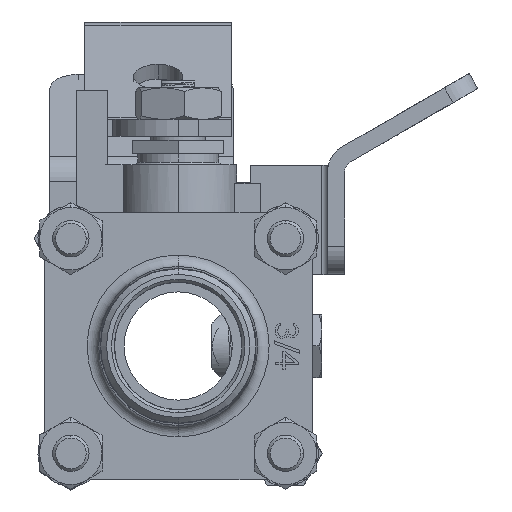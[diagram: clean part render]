
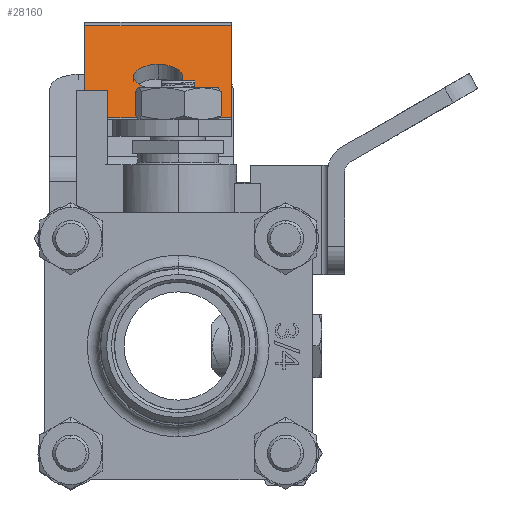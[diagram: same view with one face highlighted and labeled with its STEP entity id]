
A CAD part, left-side view. The second image highlights one B-rep face of the part: STEP entity #28160.
In plain terms, the highlighted planar face has unit normal (-0.5, 0, 0.866).
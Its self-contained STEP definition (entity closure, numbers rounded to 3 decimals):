
#21517 = VERTEX_POINT('',#21518);
#21518 = CARTESIAN_POINT('',(128.749,32.95,
    -13.852));
#21525 = CYLINDRICAL_SURFACE('',#21526,4.3);
#21526 = AXIS2_PLACEMENT_3D('',#21527,#21528,#21529);
#21527 = CARTESIAN_POINT('',(132.473,32.95,
    -11.702));
#21528 = DIRECTION('',(-0.5,0.,0.866));
#21529 = DIRECTION('',(-0.866,0.,-0.5));
#21536 = CYLINDRICAL_SURFACE('',#21537,4.3);
#21537 = AXIS2_PLACEMENT_3D('',#21538,#21539,#21540);
#21538 = CARTESIAN_POINT('',(132.473,32.95,
    -11.702));
#21539 = DIRECTION('',(-0.5,0.,0.866));
#21540 = DIRECTION('',(-0.866,0.,-0.5));
#21547 = EDGE_CURVE('',#21548,#21517,#21550,.T.);
#21548 = VERTEX_POINT('',#21549);
#21549 = CARTESIAN_POINT('',(136.197,32.95,
    -9.552));
#21550 = SURFACE_CURVE('',#21551,(#21556,#21562),.PCURVE_S1.);
#21551 = CIRCLE('',#21552,4.3);
#21552 = AXIS2_PLACEMENT_3D('',#21553,#21554,#21555);
#21553 = CARTESIAN_POINT('',(132.473,32.95,
    -11.702));
#21554 = DIRECTION('',(-0.5,0.,0.866));
#21555 = DIRECTION('',(-0.866,0.,-0.5));
#21556 = PCURVE('',#21525,#21557);
#21557 = DEFINITIONAL_REPRESENTATION('',(#21558),#21561);
#21558 = B_SPLINE_CURVE_WITH_KNOTS('',1,(#21559,#21560),.UNSPECIFIED.,
  .F.,.F.,(2,2),(3.142,6.283),.PIECEWISE_BEZIER_KNOTS.);
#21559 = CARTESIAN_POINT('',(3.142,0.));
#21560 = CARTESIAN_POINT('',(6.283,0.));
#21561 = ( GEOMETRIC_REPRESENTATION_CONTEXT(2) 
PARAMETRIC_REPRESENTATION_CONTEXT() REPRESENTATION_CONTEXT('2D SPACE',''
  ) );
#21562 = PCURVE('',#21563,#21568);
#21563 = PLANE('',#21564);
#21564 = AXIS2_PLACEMENT_3D('',#21565,#21566,#21567);
#21565 = CARTESIAN_POINT('',(119.569,20.15,
    -19.152));
#21566 = DIRECTION('',(0.5,0.,-0.866));
#21567 = DIRECTION('',(0.866,0.,0.5));
#21568 = DEFINITIONAL_REPRESENTATION('',(#21569),#21577);
#21569 = ( BOUNDED_CURVE() B_SPLINE_CURVE(2,(#21570,#21571,#21572,#21573
    ,#21574,#21575,#21576),.UNSPECIFIED.,.T.,.F.) 
B_SPLINE_CURVE_WITH_KNOTS((1,2,2,2,2,1),(-2.094,0.,
    2.094,4.189,6.283,8.378),
.UNSPECIFIED.) CURVE() GEOMETRIC_REPRESENTATION_ITEM() 
RATIONAL_B_SPLINE_CURVE((1.,0.5,1.,0.5,1.,0.5,1.)) REPRESENTATION_ITEM(
  '') );
#21570 = CARTESIAN_POINT('',(10.6,-12.8));
#21571 = CARTESIAN_POINT('',(10.6,-5.352));
#21572 = CARTESIAN_POINT('',(17.05,-9.076));
#21573 = CARTESIAN_POINT('',(23.5,-12.8));
#21574 = CARTESIAN_POINT('',(17.05,-16.524));
#21575 = CARTESIAN_POINT('',(10.6,-20.248));
#21576 = CARTESIAN_POINT('',(10.6,-12.8));
#21577 = ( GEOMETRIC_REPRESENTATION_CONTEXT(2) 
PARAMETRIC_REPRESENTATION_CONTEXT() REPRESENTATION_CONTEXT('2D SPACE',''
  ) );
#27419 = EDGE_CURVE('',#27420,#27422,#27424,.T.);
#27420 = VERTEX_POINT('',#27421);
#27421 = CARTESIAN_POINT('',(120.033,20.15,
    -18.884));
#27422 = VERTEX_POINT('',#27423);
#27423 = CARTESIAN_POINT('',(120.033,45.75,
    -18.884));
#27424 = SURFACE_CURVE('',#27425,(#27429,#27440),.PCURVE_S1.);
#27425 = LINE('',#27426,#27427);
#27426 = CARTESIAN_POINT('',(120.033,20.15,
    -18.884));
#27427 = VECTOR('',#27428,1.);
#27428 = DIRECTION('',(0.,1.,0.));
#27429 = PCURVE('',#27430,#27435);
#27430 = CYLINDRICAL_SURFACE('',#27431,2.);
#27431 = AXIS2_PLACEMENT_3D('',#27432,#27433,#27434);
#27432 = CARTESIAN_POINT('',(119.033,20.15,
    -17.152));
#27433 = DIRECTION('',(0.,-1.,0.));
#27434 = DIRECTION('',(1.,0.,0.));
#27435 = DEFINITIONAL_REPRESENTATION('',(#27436),#27439);
#27436 = B_SPLINE_CURVE_WITH_KNOTS('',1,(#27437,#27438),.UNSPECIFIED.,
  .F.,.F.,(2,2),(0.,25.6),.PIECEWISE_BEZIER_KNOTS.);
#27437 = CARTESIAN_POINT('',(5.236,0.));
#27438 = CARTESIAN_POINT('',(5.236,-25.6));
#27439 = ( GEOMETRIC_REPRESENTATION_CONTEXT(2) 
PARAMETRIC_REPRESENTATION_CONTEXT() REPRESENTATION_CONTEXT('2D SPACE',''
  ) );
#27440 = PCURVE('',#21563,#27441);
#27441 = DEFINITIONAL_REPRESENTATION('',(#27442),#27446);
#27442 = LINE('',#27443,#27444);
#27443 = CARTESIAN_POINT('',(0.536,0.));
#27444 = VECTOR('',#27445,1.);
#27445 = DIRECTION('',(0.,-1.));
#27446 = ( GEOMETRIC_REPRESENTATION_CONTEXT(2) 
PARAMETRIC_REPRESENTATION_CONTEXT() REPRESENTATION_CONTEXT('2D SPACE',''
  ) );
#27464 = PLANE('',#27465);
#27465 = AXIS2_PLACEMENT_3D('',#27466,#27467,#27468);
#27466 = CARTESIAN_POINT('',(78.473,45.75,
    -19.152));
#27467 = DIRECTION('',(0.,1.,0.));
#27468 = DIRECTION('',(-1.,0.,0.));
#27516 = PLANE('',#27517);
#27517 = AXIS2_PLACEMENT_3D('',#27518,#27519,#27520);
#27518 = CARTESIAN_POINT('',(78.473,20.15,
    -19.152));
#27519 = DIRECTION('',(0.,1.,0.));
#27520 = DIRECTION('',(-1.,0.,0.));
#27558 = EDGE_CURVE('',#21517,#21548,#27559,.T.);
#27559 = SURFACE_CURVE('',#27560,(#27565,#27571),.PCURVE_S1.);
#27560 = CIRCLE('',#27561,4.3);
#27561 = AXIS2_PLACEMENT_3D('',#27562,#27563,#27564);
#27562 = CARTESIAN_POINT('',(132.473,32.95,
    -11.702));
#27563 = DIRECTION('',(-0.5,0.,0.866));
#27564 = DIRECTION('',(-0.866,0.,-0.5));
#27565 = PCURVE('',#21536,#27566);
#27566 = DEFINITIONAL_REPRESENTATION('',(#27567),#27570);
#27567 = B_SPLINE_CURVE_WITH_KNOTS('',1,(#27568,#27569),.UNSPECIFIED.,
  .F.,.F.,(2,2),(0.,3.142),.PIECEWISE_BEZIER_KNOTS.);
#27568 = CARTESIAN_POINT('',(0.,0.));
#27569 = CARTESIAN_POINT('',(3.142,0.));
#27570 = ( GEOMETRIC_REPRESENTATION_CONTEXT(2) 
PARAMETRIC_REPRESENTATION_CONTEXT() REPRESENTATION_CONTEXT('2D SPACE',''
  ) );
#27571 = PCURVE('',#21563,#27572);
#27572 = DEFINITIONAL_REPRESENTATION('',(#27573),#27581);
#27573 = ( BOUNDED_CURVE() B_SPLINE_CURVE(2,(#27574,#27575,#27576,#27577
    ,#27578,#27579,#27580),.UNSPECIFIED.,.T.,.F.) 
B_SPLINE_CURVE_WITH_KNOTS((1,2,2,2,2,1),(-2.094,0.,
    2.094,4.189,6.283,8.378),
.UNSPECIFIED.) CURVE() GEOMETRIC_REPRESENTATION_ITEM() 
RATIONAL_B_SPLINE_CURVE((1.,0.5,1.,0.5,1.,0.5,1.)) REPRESENTATION_ITEM(
  '') );
#27574 = CARTESIAN_POINT('',(10.6,-12.8));
#27575 = CARTESIAN_POINT('',(10.6,-5.352));
#27576 = CARTESIAN_POINT('',(17.05,-9.076));
#27577 = CARTESIAN_POINT('',(23.5,-12.8));
#27578 = CARTESIAN_POINT('',(17.05,-16.524));
#27579 = CARTESIAN_POINT('',(10.6,-20.248));
#27580 = CARTESIAN_POINT('',(10.6,-12.8));
#27581 = ( GEOMETRIC_REPRESENTATION_CONTEXT(2) 
PARAMETRIC_REPRESENTATION_CONTEXT() REPRESENTATION_CONTEXT('2D SPACE',''
  ) );
#28160 = ADVANCED_FACE('',(#28161,#28165),#21563,.F.);
#28161 = FACE_BOUND('',#28162,.T.);
#28162 = EDGE_LOOP('',(#28163,#28164));
#28163 = ORIENTED_EDGE('',*,*,#27558,.F.);
#28164 = ORIENTED_EDGE('',*,*,#21547,.F.);
#28165 = FACE_BOUND('',#28166,.T.);
#28166 = EDGE_LOOP('',(#28167,#28168,#28191,#28218));
#28167 = ORIENTED_EDGE('',*,*,#27419,.F.);
#28168 = ORIENTED_EDGE('',*,*,#28169,.T.);
#28169 = EDGE_CURVE('',#27420,#28170,#28172,.T.);
#28170 = VERTEX_POINT('',#28171);
#28171 = CARTESIAN_POINT('',(147.854,20.15,
    -2.822));
#28172 = SURFACE_CURVE('',#28173,(#28177,#28184),.PCURVE_S1.);
#28173 = LINE('',#28174,#28175);
#28174 = CARTESIAN_POINT('',(120.033,20.15,
    -18.884));
#28175 = VECTOR('',#28176,1.);
#28176 = DIRECTION('',(0.866,0.,0.5));
#28177 = PCURVE('',#21563,#28178);
#28178 = DEFINITIONAL_REPRESENTATION('',(#28179),#28183);
#28179 = LINE('',#28180,#28181);
#28180 = CARTESIAN_POINT('',(0.536,0.));
#28181 = VECTOR('',#28182,1.);
#28182 = DIRECTION('',(1.,0.));
#28183 = ( GEOMETRIC_REPRESENTATION_CONTEXT(2) 
PARAMETRIC_REPRESENTATION_CONTEXT() REPRESENTATION_CONTEXT('2D SPACE',''
  ) );
#28184 = PCURVE('',#27516,#28185);
#28185 = DEFINITIONAL_REPRESENTATION('',(#28186),#28190);
#28186 = LINE('',#28187,#28188);
#28187 = CARTESIAN_POINT('',(-41.56,0.268));
#28188 = VECTOR('',#28189,1.);
#28189 = DIRECTION('',(-0.866,0.5));
#28190 = ( GEOMETRIC_REPRESENTATION_CONTEXT(2) 
PARAMETRIC_REPRESENTATION_CONTEXT() REPRESENTATION_CONTEXT('2D SPACE',''
  ) );
#28191 = ORIENTED_EDGE('',*,*,#28192,.F.);
#28192 = EDGE_CURVE('',#28193,#28170,#28195,.T.);
#28193 = VERTEX_POINT('',#28194);
#28194 = CARTESIAN_POINT('',(147.854,45.75,
    -2.822));
#28195 = SURFACE_CURVE('',#28196,(#28200,#28207),.PCURVE_S1.);
#28196 = LINE('',#28197,#28198);
#28197 = CARTESIAN_POINT('',(147.854,20.15,
    -2.822));
#28198 = VECTOR('',#28199,1.);
#28199 = DIRECTION('',(0.,-1.,0.));
#28200 = PCURVE('',#21563,#28201);
#28201 = DEFINITIONAL_REPRESENTATION('',(#28202),#28206);
#28202 = LINE('',#28203,#28204);
#28203 = CARTESIAN_POINT('',(32.66,0.));
#28204 = VECTOR('',#28205,1.);
#28205 = DIRECTION('',(0.,1.));
#28206 = ( GEOMETRIC_REPRESENTATION_CONTEXT(2) 
PARAMETRIC_REPRESENTATION_CONTEXT() REPRESENTATION_CONTEXT('2D SPACE',''
  ) );
#28207 = PCURVE('',#28208,#28213);
#28208 = CYLINDRICAL_SURFACE('',#28209,5.);
#28209 = AXIS2_PLACEMENT_3D('',#28210,#28211,#28212);
#28210 = CARTESIAN_POINT('',(150.354,20.15,
    -7.152));
#28211 = DIRECTION('',(0.,1.,0.));
#28212 = DIRECTION('',(-1.,0.,0.));
#28213 = DEFINITIONAL_REPRESENTATION('',(#28214),#28217);
#28214 = B_SPLINE_CURVE_WITH_KNOTS('',1,(#28215,#28216),.UNSPECIFIED.,
  .F.,.F.,(2,2),(-25.6,0.),.PIECEWISE_BEZIER_KNOTS.);
#28215 = CARTESIAN_POINT('',(1.047,25.6));
#28216 = CARTESIAN_POINT('',(1.047,0.));
#28217 = ( GEOMETRIC_REPRESENTATION_CONTEXT(2) 
PARAMETRIC_REPRESENTATION_CONTEXT() REPRESENTATION_CONTEXT('2D SPACE',''
  ) );
#28218 = ORIENTED_EDGE('',*,*,#28219,.F.);
#28219 = EDGE_CURVE('',#27422,#28193,#28220,.T.);
#28220 = SURFACE_CURVE('',#28221,(#28225,#28232),.PCURVE_S1.);
#28221 = LINE('',#28222,#28223);
#28222 = CARTESIAN_POINT('',(120.033,45.75,
    -18.884));
#28223 = VECTOR('',#28224,1.);
#28224 = DIRECTION('',(0.866,0.,0.5));
#28225 = PCURVE('',#21563,#28226);
#28226 = DEFINITIONAL_REPRESENTATION('',(#28227),#28231);
#28227 = LINE('',#28228,#28229);
#28228 = CARTESIAN_POINT('',(0.536,-25.6));
#28229 = VECTOR('',#28230,1.);
#28230 = DIRECTION('',(1.,0.));
#28231 = ( GEOMETRIC_REPRESENTATION_CONTEXT(2) 
PARAMETRIC_REPRESENTATION_CONTEXT() REPRESENTATION_CONTEXT('2D SPACE',''
  ) );
#28232 = PCURVE('',#27464,#28233);
#28233 = DEFINITIONAL_REPRESENTATION('',(#28234),#28238);
#28234 = LINE('',#28235,#28236);
#28235 = CARTESIAN_POINT('',(-41.56,0.268));
#28236 = VECTOR('',#28237,1.);
#28237 = DIRECTION('',(-0.866,0.5));
#28238 = ( GEOMETRIC_REPRESENTATION_CONTEXT(2) 
PARAMETRIC_REPRESENTATION_CONTEXT() REPRESENTATION_CONTEXT('2D SPACE',''
  ) );
